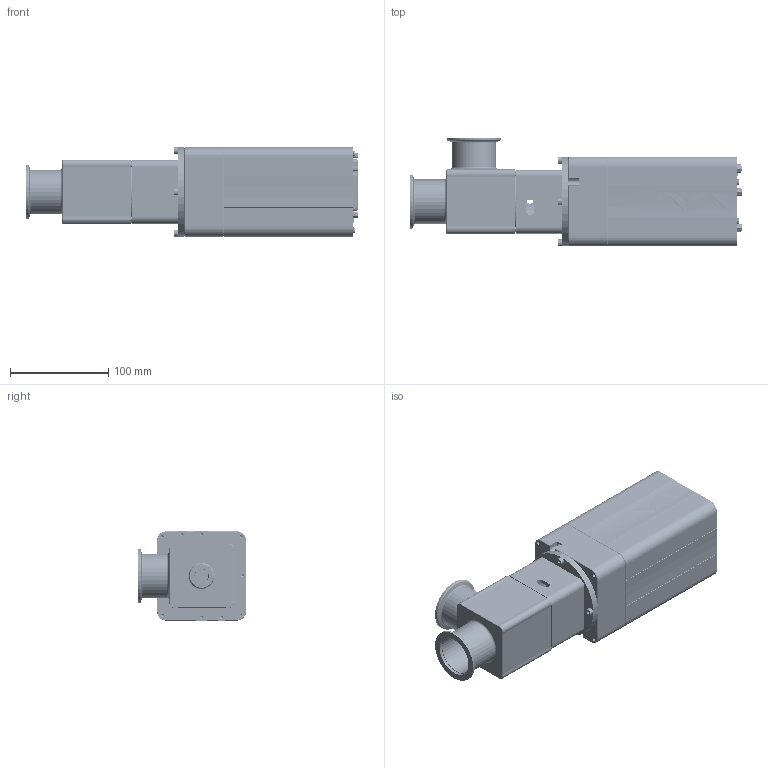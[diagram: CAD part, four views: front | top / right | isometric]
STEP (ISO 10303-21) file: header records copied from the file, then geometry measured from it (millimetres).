
FILE_DESCRIPTION(/* description */ (''),/* implementation_level */ '2;1');
FILE_NAME(/* name */ '1364539425_203.stp',/* time_stamp */ '2023-08-14T07:23:49+02:00',/* author */ (''),/* organization */ (''),/* preprocessor_version */ 'ST-DEVELOPER v19.3',/* originating_system */ 'SIEMENS PLM Software NX2212.6000',/* authorisation */ '');
FILE_SCHEMA (('AP203_CONFIGURATION_CONTROLLED_3D_DESIGN_OF_MECHANICAL_PARTS_AND_ASSEMBLIES_MIM_LF { 1 0 10303 403 2 1 2}'));
Products named in the file (31): 763111_39793ID; n-6092-098.1; n-6092-104.1; 1091110; 847466; 853548; 847458; N-E505-079.1; 868520; 325243.3; n-6160-408.1; n-6134-406.1; 801149; 859978; 859979; 888454; 224789.1; 1087473; n-6241-084.1; 226692.10_39727ID; 244222.1; 236055.1; 1091106_MODEL; 854573; 847243_MODEL; 921267_MODEL; 868577; 1210931; 1120314_MODEL; 940241_MODEL; 929839
Assembly tree (50 placements, depth 6):
  929839
    236055.1  x4
    940241_MODEL
      226692.10_39727ID
    1120314_MODEL
      n-6241-084.1
      1087473
    244222.1  x4
    1210931
      224789.1  x2
      888454
      859979
      859978
      801149
      n-6134-406.1
      n-6160-408.1
      325243.3  x4
      868577
        921267_MODEL
          847243_MODEL
            763111_39793ID
        847458  x2
      868520
      N-E505-079.1  x6
      854573
        853548
        847458  x2
        847466  x3
      1091106_MODEL
        1091110
        n-6092-104.1
        n-6092-098.1
Bounding box: 337.8 x 110.5 x 91.1 mm (x, y, z)
Volume: 640153.4 mm3; surface area: 317861.6 mm2
Topology: 80 solids, 86 shells, 13412 faces, 36486 edges, 23907 vertices
Faces by surface type: plane 7815, cylinder 2350, bspline 2336, cone 547, torus 225, extrusion 97, sphere 30, revolution 12
Full cylindrical faces by diameter (mm): 0.2 x8, 0.7 x20, 0.9 x2, 1 x40, 1.4 x2, 1.6 x11, 2 x1, 2.1 x1, 2.449 x4, 2.459 x7, 2.5 x14, 3 x16, 3.1 x2, 3.2 x13, 3.26 x11, 3.3 x25, 3.78 x4, 3.88 x3, 3.99 x4, 4 x24, 4.006 x2, 4.05 x2, 4.15 x2, 4.19 x3, 4.2 x13, 4.24 x2, 4.3 x5, 4.5 x10, 6 x4, 7 x11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
Entity records: 563009 total; most frequent: CARTESIAN_POINT 157103, ORIENTED_EDGE 71024, DIRECTION 55873, EDGE_CURVE 35512, VECTOR 24005, LINE 23908, VERTEX_POINT 23415, AXIS2_PLACEMENT_3D 15928
